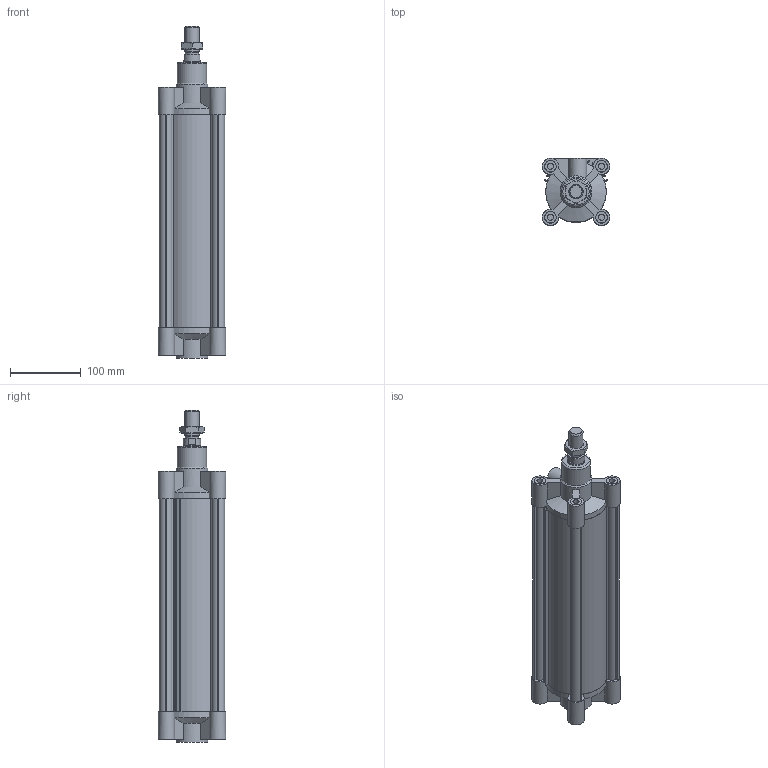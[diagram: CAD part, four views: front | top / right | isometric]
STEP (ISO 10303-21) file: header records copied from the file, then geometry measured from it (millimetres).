
FILE_DESCRIPTION((''),'2;1');
FILE_NAME('I:\Area Tecnica\Disegni\VARIE-3D\Componenti\ECOLIGHT\139#.##_0000_01\stp\139#_80_0250_01.iam.stp','2012-01-28T08:03:07',(''),(''),'Autodesk Inventor 2012','Autodesk Inventor 2012','');
FILE_SCHEMA(('AUTOMOTIVE_DESIGN { 1 0 10303 214 1 1 1 1 }'));
Length unit declared in the file: millimetre
Products named in the file (6): 139#_80_0250_01; CPL080_004-250; CPL080-001-01; CPL080-002-01; CPL_80_0250; 1320_80_18F
Assembly tree (5 placements, depth 2):
  139#_80_0250_01
    CPL080_004-250
    CPL080-001-01
    CPL080-002-01
    CPL_80_0250
    1320_80_18F
Bounding box: 95 x 95 x 468.5 mm (x, y, z)
Volume: 1296045.7 mm3; surface area: 405494.3 mm2
Topology: 5 solids, 5 shells, 264 faces, 648 edges, 426 vertices
Faces by surface type: plane 154, cylinder 83, cone 26, torus 1
Full cylindrical faces by diameter (mm): 8.5 x8, 12 x2, 15.2 x2, 16 x8, 16.5 x8, 18 x1, 18.5 x1, 20 x1, 24.5 x1, 25 x2, 41 x1, 45 x2, 80 x4
Entity records: 7874 total; most frequent: CARTESIAN_POINT 1483, DIRECTION 1288, ORIENTED_EDGE 1186, EDGE_CURVE 593, AXIS2_PLACEMENT_3D 476, VERTEX_POINT 419, EDGE_LOOP 358, VECTOR 336
